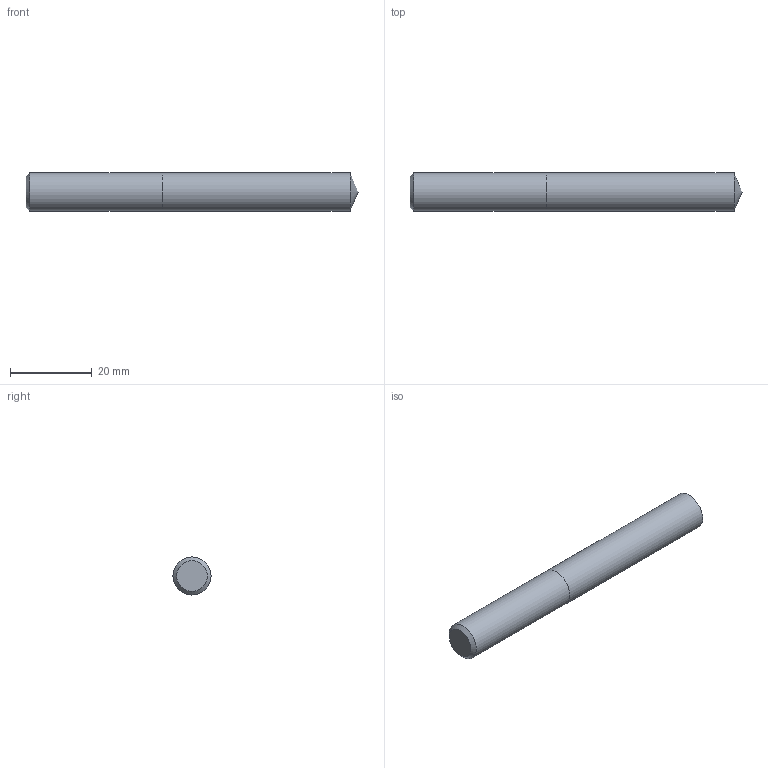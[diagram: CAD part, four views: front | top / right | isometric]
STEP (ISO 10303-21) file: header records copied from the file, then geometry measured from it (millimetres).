
FILE_DESCRIPTION (( 'STEP AP214' ), '1' );
FILE_NAME ('03-2337.STEP', '2022-06-03T06:24:12', ( 'USER' ), ( '' ), 'SwSTEP 2.0', 'SolidWorks 2018', '' );
FILE_SCHEMA (( 'AUTOMOTIVE_DESIGN' ));
Length unit declared in the file: inch
Products named in the file (1): 03-2337
Bounding box: 81.31 x 9.35 x 9.35 mm (x, y, z)
Volume: 5479 mm3; surface area: 2593.8 mm2
Topology: 2 solids, 2 shells, 7 faces, 11 edges, 7 vertices
Faces by surface type: plane 3, cylinder 2, cone 2
Full cylindrical faces by diameter (mm): 9.347 x2
Entity records: 214 total; most frequent: DIRECTION 26, CARTESIAN_POINT 18, AXIS2_PLACEMENT_3D 13, EDGE_LOOP 10, ORIENTED_EDGE 10, FACE_OUTER_BOUND 9, ADVANCED_FACE 7, LENGTH_MEASURE_WITH_UNIT 7
